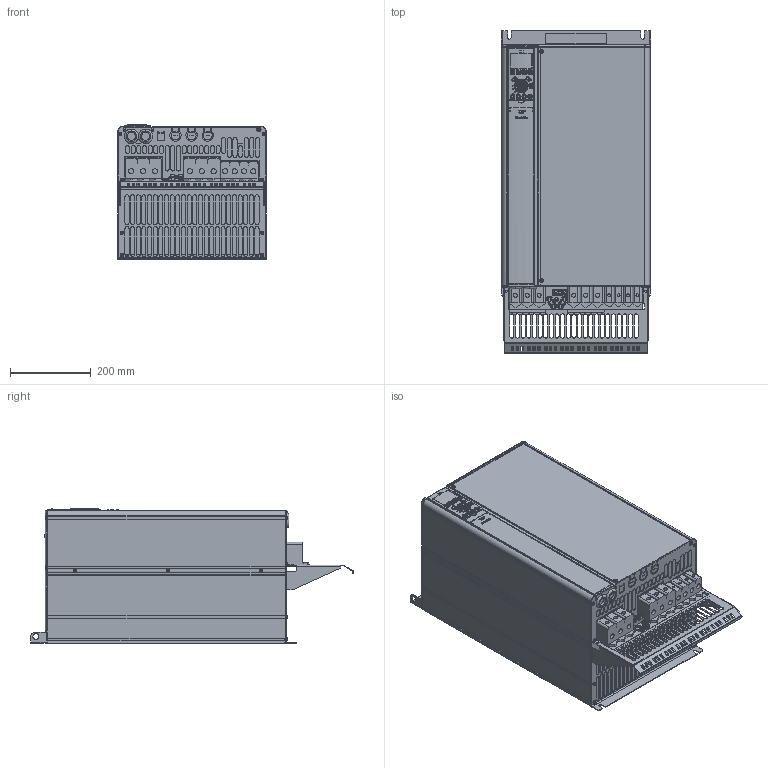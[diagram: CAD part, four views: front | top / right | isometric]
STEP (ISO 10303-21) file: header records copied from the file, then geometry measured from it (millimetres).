
FILE_DESCRIPTION((''),'2;1');
FILE_NAME('DANFOSS-FC300-C4-IP20-129','2007-07-10T',('janardhan.mankala'),('dan Drives A/S'),'PRO/ENGINEER BY PARAMETRIC TECHNOLOGY CORPORATION, 2006200','PRO/ENGINEER BY PARAMETRIC TECHNOLOGY CORPORATION, 2006200','');
FILE_SCHEMA(('CONFIG_CONTROL_DESIGN', 'GEOMETRIC_VALIDATION_PROPERTIES_MIM'));
Products named in the file (1): DANFOSS-FC300-C4-IP20-129
Bounding box: 370.9 x 800 x 334 mm (x, y, z)
Volume: 69638264.5 mm3; surface area: 1817683.4 mm2
Topology: 1 solids, 30 shells, 5213 faces, 14336 edges, 9296 vertices
Faces by surface type: plane 2577, cylinder 1592, bspline 572, extrusion 174, torus 132, cone 100, sphere 66
Entity records: 255548 total; most frequent: CARTESIAN_POINT 109154, ORIENTED_EDGE 28526, DIRECTION 23652, EDGE_CURVE 14263, VERTEX_POINT 9296, VECTOR 8302, LINE 8128, AXIS2_PLACEMENT_3D 7675
